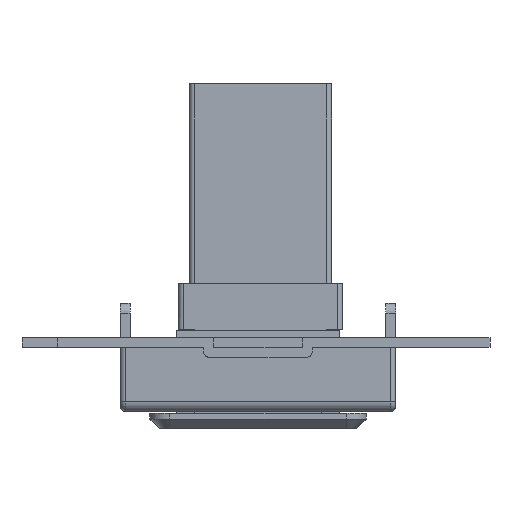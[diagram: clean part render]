
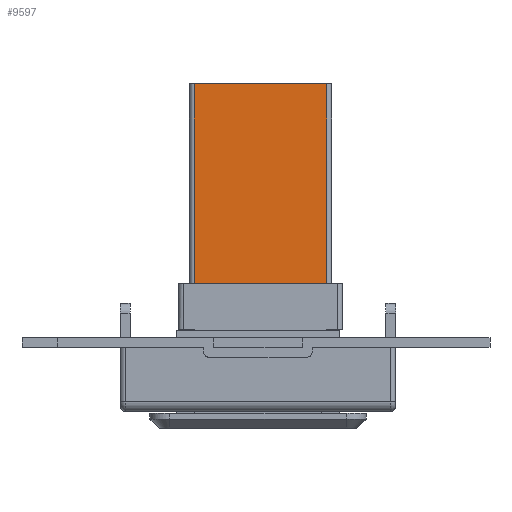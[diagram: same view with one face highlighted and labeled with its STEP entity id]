
A CAD part, front view. The second image highlights one B-rep face of the part: STEP entity #9597.
In plain terms, the highlighted free-form (B-spline) face has degree [1, 1] with [2, 2] control points.
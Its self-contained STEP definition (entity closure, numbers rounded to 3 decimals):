
#9597 = ADVANCED_FACE('',(#9598),#9644,.T.);
#9598 = FACE_BOUND('',#9599,.T.);
#9599 = EDGE_LOOP('',(#9600,#9613,#9624,#9635));
#9600 = ORIENTED_EDGE('',*,*,#9601,.F.);
#9601 = EDGE_CURVE('',#9602,#9604,#9606,.T.);
#9602 = VERTEX_POINT('',#9603);
#9603 = CARTESIAN_POINT('',(14.725,13.98,0.285));
#9604 = VERTEX_POINT('',#9605);
#9605 = CARTESIAN_POINT('',(35.,13.98,0.285));
#9606 = B_SPLINE_CURVE_WITH_KNOTS('',5,(#9607,#9608,#9609,#9610,#9611,
    #9612),.UNSPECIFIED.,.F.,.F.,(6,6),(0.,20.275),
  .PIECEWISE_BEZIER_KNOTS.);
#9607 = CARTESIAN_POINT('',(14.725,13.98,0.285));
#9608 = CARTESIAN_POINT('',(18.78,13.98,0.285));
#9609 = CARTESIAN_POINT('',(22.835,13.98,0.285));
#9610 = CARTESIAN_POINT('',(26.89,13.98,0.285));
#9611 = CARTESIAN_POINT('',(30.945,13.98,0.285));
#9612 = CARTESIAN_POINT('',(35.,13.98,0.285));
#9613 = ORIENTED_EDGE('',*,*,#9614,.F.);
#9614 = EDGE_CURVE('',#9615,#9602,#9617,.T.);
#9615 = VERTEX_POINT('',#9616);
#9616 = CARTESIAN_POINT('',(14.725,0.5,0.285));
#9617 = B_SPLINE_CURVE_WITH_KNOTS('',5,(#9618,#9619,#9620,#9621,#9622,
    #9623),.UNSPECIFIED.,.F.,.F.,(6,6),(0.,13.48),
  .PIECEWISE_BEZIER_KNOTS.);
#9618 = CARTESIAN_POINT('',(14.725,0.5,0.285));
#9619 = CARTESIAN_POINT('',(14.725,3.196,0.285));
#9620 = CARTESIAN_POINT('',(14.725,5.892,0.285));
#9621 = CARTESIAN_POINT('',(14.725,8.588,0.285));
#9622 = CARTESIAN_POINT('',(14.725,11.284,0.285));
#9623 = CARTESIAN_POINT('',(14.725,13.98,0.285));
#9624 = ORIENTED_EDGE('',*,*,#9625,.F.);
#9625 = EDGE_CURVE('',#9626,#9615,#9628,.T.);
#9626 = VERTEX_POINT('',#9627);
#9627 = CARTESIAN_POINT('',(35.,0.5,0.285));
#9628 = B_SPLINE_CURVE_WITH_KNOTS('',5,(#9629,#9630,#9631,#9632,#9633,
    #9634),.UNSPECIFIED.,.F.,.F.,(6,6),(0.,20.275),
  .PIECEWISE_BEZIER_KNOTS.);
#9629 = CARTESIAN_POINT('',(35.,0.5,0.285));
#9630 = CARTESIAN_POINT('',(30.945,0.5,0.285));
#9631 = CARTESIAN_POINT('',(26.89,0.5,0.285));
#9632 = CARTESIAN_POINT('',(22.835,0.5,0.285));
#9633 = CARTESIAN_POINT('',(18.78,0.5,0.285));
#9634 = CARTESIAN_POINT('',(14.725,0.5,0.285));
#9635 = ORIENTED_EDGE('',*,*,#9636,.T.);
#9636 = EDGE_CURVE('',#9626,#9604,#9637,.T.);
#9637 = B_SPLINE_CURVE_WITH_KNOTS('',5,(#9638,#9639,#9640,#9641,#9642,
    #9643),.UNSPECIFIED.,.F.,.F.,(6,6),(0.,13.48),
  .PIECEWISE_BEZIER_KNOTS.);
#9638 = CARTESIAN_POINT('',(35.,0.5,0.285));
#9639 = CARTESIAN_POINT('',(35.,3.196,0.285));
#9640 = CARTESIAN_POINT('',(35.,5.892,0.285));
#9641 = CARTESIAN_POINT('',(35.,8.588,0.285));
#9642 = CARTESIAN_POINT('',(35.,11.284,0.285));
#9643 = CARTESIAN_POINT('',(35.,13.98,0.285));
#9644 = B_SPLINE_SURFACE_WITH_KNOTS('',1,1,(
    (#9645,#9646)
    ,(#9647,#9648
    )),.UNSPECIFIED.,.F.,.F.,.F.,(2,2),(2,2),(0.,1.504),(0.,1.)
  ,.PIECEWISE_BEZIER_KNOTS.);
#9645 = CARTESIAN_POINT('',(14.725,0.5,0.285));
#9646 = CARTESIAN_POINT('',(14.725,13.98,0.285));
#9647 = CARTESIAN_POINT('',(35.,0.5,0.285));
#9648 = CARTESIAN_POINT('',(35.,13.98,0.285));
